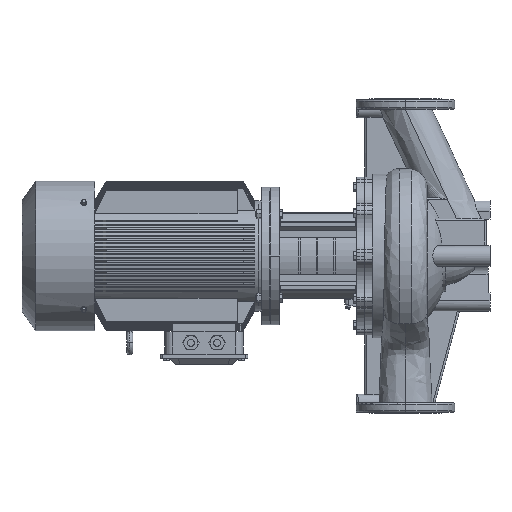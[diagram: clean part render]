
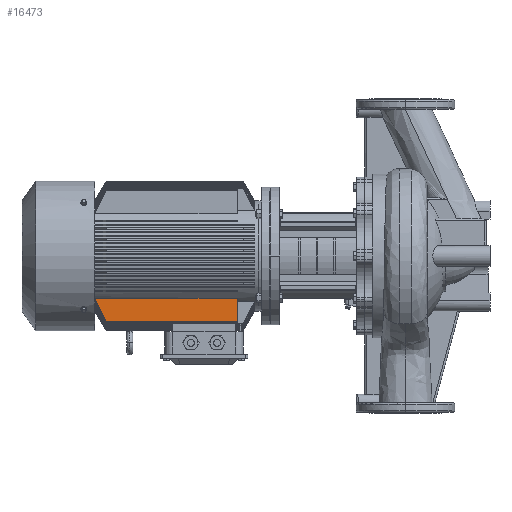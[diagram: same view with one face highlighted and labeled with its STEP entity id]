
A CAD part, left-side view. The second image highlights one B-rep face of the part: STEP entity #16473.
In plain terms, the highlighted planar face has unit normal (-1, 0, 0).
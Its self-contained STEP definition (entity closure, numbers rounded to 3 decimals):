
#2354 = CARTESIAN_POINT ( 'NONE',  ( -90.376, 775.12, -137.619 ) ) ;
#5137 = VERTEX_POINT ( 'NONE', #67057 ) ;
#5566 = VECTOR ( 'NONE', #26318, 1000. ) ;
#7481 = B_SPLINE_CURVE_WITH_KNOTS ( 'NONE', 3,
 ( #58243, #24670, #14217, #25392, #8822, #58605, #53169, #46324, #62586, #9184, #47047, #36216, #35514, #52817, #45986, #2354, #47387, #35862, #57879, #35154, #57181, #68759, #69457, #18918, #63321, #30103, #18569, #25037, #19974, #29755, #13874, #52089 ),
 .UNSPECIFIED., .F., .F.,
 ( 4, 2, 2, 1, 1, 1, 1, 1, 1, 1, 2, 2, 2, 2, 1, 1, 1, 1, 1, 2, 2, 4 ),
 ( 0., 0.25, 0.375, 0.437, 0.469, 0.484, 0.492, 0.496, 0.498, 0.499, 0.5, 0.5, 0.625, 0.687, 0.719, 0.734, 0.742, 0.746, 0.748, 0.749, 0.75, 1. ),
 .UNSPECIFIED. ) ;
#8822 = CARTESIAN_POINT ( 'NONE',  ( -90.377, 770.544, -147.014 ) ) ;
#9184 = CARTESIAN_POINT ( 'NONE',  ( -90.376, 774.881, -138.113 ) ) ;
#11611 = DIRECTION ( 'NONE',  ( 0., -1., 0. ) ) ;
#12532 = EDGE_LOOP ( 'NONE', ( #30920, #35909, #47556, #22862 ) ) ;
#13874 = CARTESIAN_POINT ( 'NONE',  ( -90.376, 786.862, -112.54 ) ) ;
#14217 = CARTESIAN_POINT ( 'NONE',  ( -90.377, 765.689, -156.814 ) ) ;
#15146 = LINE ( 'NONE', #59169, #5566 ) ;
#15757 = DIRECTION ( 'NONE',  ( 1., 0., 0. ) ) ;
#16473 = ADVANCED_FACE ( 'NONE', ( #21521 ), #26209, .F. ) ;
#16657 = CARTESIAN_POINT ( 'NONE',  ( -90.376, 789., -167.129 ) ) ;
#18569 = CARTESIAN_POINT ( 'NONE',  ( -90.376, 782.15, -122.791 ) ) ;
#18918 = CARTESIAN_POINT ( 'NONE',  ( -90.376, 781.941, -123.241 ) ) ;
#19806 = LINE ( 'NONE', #23810, #64454 ) ;
#19974 = CARTESIAN_POINT ( 'NONE',  ( -90.376, 782.176, -122.736 ) ) ;
#21521 = FACE_OUTER_BOUND ( 'NONE', #12532, .T. ) ;
#22862 = ORIENTED_EDGE ( 'NONE', *, *, #29924, .T. ) ;
#23462 = AXIS2_PLACEMENT_3D ( 'NONE', #31990, #15757, #71375 ) ;
#23810 = CARTESIAN_POINT ( 'NONE',  ( -90.376, 427.6, -167.129 ) ) ;
#24670 = CARTESIAN_POINT ( 'NONE',  ( -90.376, 763.139, -161.892 ) ) ;
#25037 = CARTESIAN_POINT ( 'NONE',  ( -90.376, 782.168, -122.753 ) ) ;
#25392 = CARTESIAN_POINT ( 'NONE',  ( -90.377, 769.351, -149.434 ) ) ;
#26209 = PLANE ( 'NONE',  #23462 ) ;
#26318 = DIRECTION ( 'NONE',  ( 0., -1., 0. ) ) ;
#27130 = VERTEX_POINT ( 'NONE', #66099 ) ;
#27364 = EDGE_CURVE ( 'NONE', #27130, #5137, #19806, .T. ) ;
#27725 = VERTEX_POINT ( 'NONE', #42453 ) ;
#29755 = CARTESIAN_POINT ( 'NONE',  ( -90.376, 784.59, -117.542 ) ) ;
#29924 = EDGE_CURVE ( 'NONE', #27725, #5137, #66491, .T. ) ;
#30103 = CARTESIAN_POINT ( 'NONE',  ( -90.376, 782.124, -122.847 ) ) ;
#30920 = ORIENTED_EDGE ( 'NONE', *, *, #27364, .F. ) ;
#31990 = CARTESIAN_POINT ( 'NONE',  ( -90.376, 789., -167.129 ) ) ;
#35154 = CARTESIAN_POINT ( 'NONE',  ( -90.376, 779.916, -127.566 ) ) ;
#35514 = CARTESIAN_POINT ( 'NONE',  ( -90.376, 775.094, -137.672 ) ) ;
#35862 = CARTESIAN_POINT ( 'NONE',  ( -90.376, 777.57, -132.52 ) ) ;
#35909 = ORIENTED_EDGE ( 'NONE', *, *, #54329, .F. ) ;
#36216 = CARTESIAN_POINT ( 'NONE',  ( -90.376, 775.064, -137.735 ) ) ;
#42453 = CARTESIAN_POINT ( 'NONE',  ( -90.376, 760.479, -167.129 ) ) ;
#44348 = VECTOR ( 'NONE', #11611, 1000. ) ;
#45986 = CARTESIAN_POINT ( 'NONE',  ( -90.376, 775.116, -137.627 ) ) ;
#46324 = CARTESIAN_POINT ( 'NONE',  ( -90.376, 774.146, -139.632 ) ) ;
#47047 = CARTESIAN_POINT ( 'NONE',  ( -90.376, 775.003, -137.861 ) ) ;
#47387 = CARTESIAN_POINT ( 'NONE',  ( -90.376, 776.363, -135.043 ) ) ;
#47556 = ORIENTED_EDGE ( 'NONE', *, *, #50018, .F. ) ;
#50018 = EDGE_CURVE ( 'NONE', #27725, #70924, #7481, .T. ) ;
#52089 = CARTESIAN_POINT ( 'NONE',  ( -90.376, 789., -107.706 ) ) ;
#52817 = CARTESIAN_POINT ( 'NONE',  ( -90.376, 775.107, -137.645 ) ) ;
#53169 = CARTESIAN_POINT ( 'NONE',  ( -90.376, 773.156, -141.672 ) ) ;
#54329 = EDGE_CURVE ( 'NONE', #70924, #27130, #15146, .T. ) ;
#55563 = CARTESIAN_POINT ( 'NONE',  ( -90.376, 789., -107.706 ) ) ;
#57181 = CARTESIAN_POINT ( 'NONE',  ( -90.376, 780.775, -125.735 ) ) ;
#57879 = CARTESIAN_POINT ( 'NONE',  ( -90.376, 779.335, -128.796 ) ) ;
#58243 = CARTESIAN_POINT ( 'NONE',  ( -90.376, 760.479, -167.129 ) ) ;
#58605 = CARTESIAN_POINT ( 'NONE',  ( -90.376, 772.292, -143.443 ) ) ;
#59169 = CARTESIAN_POINT ( 'NONE',  ( -90.376, 789., -107.706 ) ) ;
#62586 = CARTESIAN_POINT ( 'NONE',  ( -90.376, 774.637, -138.618 ) ) ;
#63321 = CARTESIAN_POINT ( 'NONE',  ( -90.376, 782.063, -122.978 ) ) ;
#64454 = VECTOR ( 'NONE', #67874, 1000. ) ;
#66099 = CARTESIAN_POINT ( 'NONE',  ( -90.376, 427.6, -107.706 ) ) ;
#66491 = LINE ( 'NONE', #16657, #44348 ) ;
#67057 = CARTESIAN_POINT ( 'NONE',  ( -90.376, 427.6, -167.129 ) ) ;
#67874 = DIRECTION ( 'NONE',  ( 0., 0., -1. ) ) ;
#68759 = CARTESIAN_POINT ( 'NONE',  ( -90.376, 781.202, -124.824 ) ) ;
#69457 = CARTESIAN_POINT ( 'NONE',  ( -90.376, 781.695, -123.768 ) ) ;
#70924 = VERTEX_POINT ( 'NONE', #55563 ) ;
#71375 = DIRECTION ( 'NONE',  ( 0., 0., -1. ) ) ;
